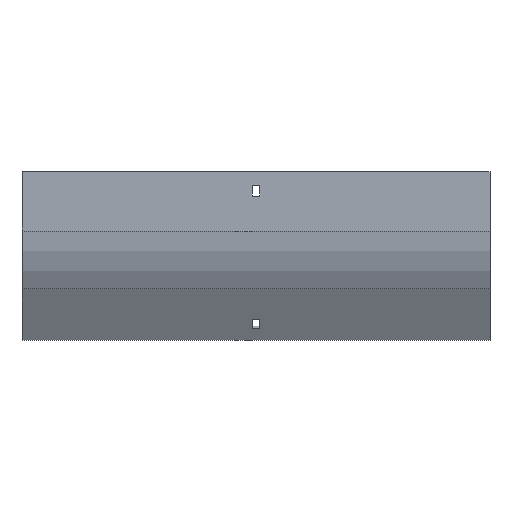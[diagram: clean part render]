
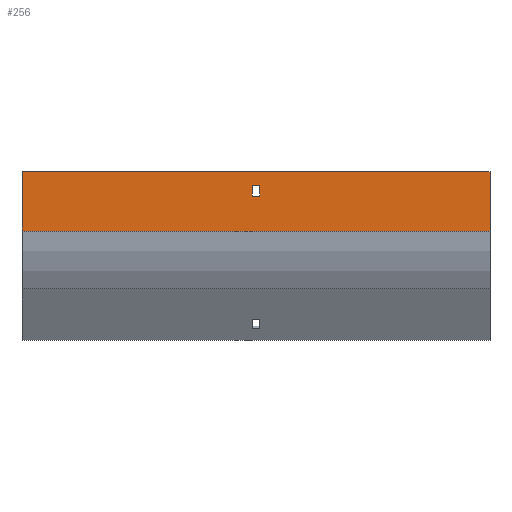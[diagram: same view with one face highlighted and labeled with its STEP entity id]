
A CAD part, front view. The second image highlights one B-rep face of the part: STEP entity #256.
In plain terms, the highlighted planar face has unit normal (0, -1, 0).
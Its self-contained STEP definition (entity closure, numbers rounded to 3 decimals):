
#224 = FACE_BOUND ( 'NONE', #909, .T. ) ;
#234 = DIRECTION ( 'NONE',  ( 0., 0., -1. ) ) ;
#256 = ADVANCED_FACE ( 'NONE', ( #224, #812 ), #1400, .F. ) ;
#275 = ORIENTED_EDGE ( 'NONE', *, *, #289, .F. ) ;
#287 = CARTESIAN_POINT ( 'NONE',  ( -3.25, -79., -12. ) ) ;
#289 = EDGE_CURVE ( 'NONE', #595, #1115, #803, .T. ) ;
#325 = DIRECTION ( 'NONE',  ( 0., 0., 1. ) ) ;
#343 = DIRECTION ( 'NONE',  ( 0., 0., -1. ) ) ;
#346 = DIRECTION ( 'NONE',  ( -1., 0., 0. ) ) ;
#407 = CARTESIAN_POINT ( 'NONE',  ( -202., -79., -51.168 ) ) ;
#412 = VERTEX_POINT ( 'NONE', #407 ) ;
#449 = DIRECTION ( 'NONE',  ( -1., 0., 0. ) ) ;
#455 = ORIENTED_EDGE ( 'NONE', *, *, #1269, .T. ) ;
#465 = VECTOR ( 'NONE', #343, 1000. ) ;
#481 = CARTESIAN_POINT ( 'NONE',  ( -3.25, -79., -21. ) ) ;
#500 = CARTESIAN_POINT ( 'NONE',  ( -202., -79., -51.168 ) ) ;
#522 = ORIENTED_EDGE ( 'NONE', *, *, #1260, .T. ) ;
#549 = LINE ( 'NONE', #1751, #1002 ) ;
#557 = LINE ( 'NONE', #1505, #1159 ) ;
#584 = ORIENTED_EDGE ( 'NONE', *, *, #1463, .T. ) ;
#595 = VERTEX_POINT ( 'NONE', #1112 ) ;
#604 = ORIENTED_EDGE ( 'NONE', *, *, #835, .T. ) ;
#757 = DIRECTION ( 'NONE',  ( -1., 0., 0. ) ) ;
#760 = LINE ( 'NONE', #1673, #1344 ) ;
#769 = LINE ( 'NONE', #481, #1658 ) ;
#781 = ORIENTED_EDGE ( 'NONE', *, *, #1309, .T. ) ;
#803 = LINE ( 'NONE', #1123, #827 ) ;
#812 = FACE_OUTER_BOUND ( 'NONE', #1424, .T. ) ;
#827 = VECTOR ( 'NONE', #234, 1000. ) ;
#835 = EDGE_CURVE ( 'NONE', #1021, #1884, #760, .T. ) ;
#906 = CARTESIAN_POINT ( 'NONE',  ( 202., -79., -51.168 ) ) ;
#909 = EDGE_LOOP ( 'NONE', ( #1313, #604, #584, #522 ) ) ;
#953 = CARTESIAN_POINT ( 'NONE',  ( 3.25, -79., -21. ) ) ;
#962 = CARTESIAN_POINT ( 'NONE',  ( 3.25, -79., -12. ) ) ;
#982 = VERTEX_POINT ( 'NONE', #953 ) ;
#1002 = VECTOR ( 'NONE', #1760, 1000. ) ;
#1004 = VERTEX_POINT ( 'NONE', #962 ) ;
#1021 = VERTEX_POINT ( 'NONE', #1648 ) ;
#1071 = AXIS2_PLACEMENT_3D ( 'NONE', #1247, #1701, #1709 ) ;
#1112 = CARTESIAN_POINT ( 'NONE',  ( 202., -79., 0. ) ) ;
#1115 = VERTEX_POINT ( 'NONE', #906 ) ;
#1123 = CARTESIAN_POINT ( 'NONE',  ( 202., -79., -51.168 ) ) ;
#1158 = CARTESIAN_POINT ( 'NONE',  ( -202., -79., 0. ) ) ;
#1159 = VECTOR ( 'NONE', #1517, 1000. ) ;
#1183 = VECTOR ( 'NONE', #346, 1000. ) ;
#1224 = EDGE_CURVE ( 'NONE', #1115, #412, #1227, .T. ) ;
#1227 = LINE ( 'NONE', #1447, #1183 ) ;
#1247 = CARTESIAN_POINT ( 'NONE',  ( 202., -79., -51.168 ) ) ;
#1260 = EDGE_CURVE ( 'NONE', #1004, #982, #549, .T. ) ;
#1269 = EDGE_CURVE ( 'NONE', #595, #1788, #1338, .T. ) ;
#1295 = EDGE_CURVE ( 'NONE', #982, #1021, #769, .T. ) ;
#1309 = EDGE_CURVE ( 'NONE', #1788, #412, #1657, .T. ) ;
#1313 = ORIENTED_EDGE ( 'NONE', *, *, #1295, .T. ) ;
#1338 = LINE ( 'NONE', #1770, #1442 ) ;
#1344 = VECTOR ( 'NONE', #325, 1000. ) ;
#1400 = PLANE ( 'NONE',  #1071 ) ;
#1424 = EDGE_LOOP ( 'NONE', ( #781, #1777, #275, #455 ) ) ;
#1442 = VECTOR ( 'NONE', #449, 1000. ) ;
#1447 = CARTESIAN_POINT ( 'NONE',  ( 202., -79., -51.168 ) ) ;
#1463 = EDGE_CURVE ( 'NONE', #1884, #1004, #557, .T. ) ;
#1505 = CARTESIAN_POINT ( 'NONE',  ( -3.25, -79., -12. ) ) ;
#1517 = DIRECTION ( 'NONE',  ( 1., 0., 0. ) ) ;
#1648 = CARTESIAN_POINT ( 'NONE',  ( -3.25, -79., -21. ) ) ;
#1657 = LINE ( 'NONE', #500, #465 ) ;
#1658 = VECTOR ( 'NONE', #757, 1000. ) ;
#1673 = CARTESIAN_POINT ( 'NONE',  ( -3.25, -79., -21. ) ) ;
#1701 = DIRECTION ( 'NONE',  ( 0., 1., 0. ) ) ;
#1709 = DIRECTION ( 'NONE',  ( 0., 0., 1. ) ) ;
#1751 = CARTESIAN_POINT ( 'NONE',  ( 3.25, -79., -21. ) ) ;
#1760 = DIRECTION ( 'NONE',  ( 0., 0., -1. ) ) ;
#1770 = CARTESIAN_POINT ( 'NONE',  ( 202., -79., 0. ) ) ;
#1777 = ORIENTED_EDGE ( 'NONE', *, *, #1224, .F. ) ;
#1788 = VERTEX_POINT ( 'NONE', #1158 ) ;
#1884 = VERTEX_POINT ( 'NONE', #287 ) ;
